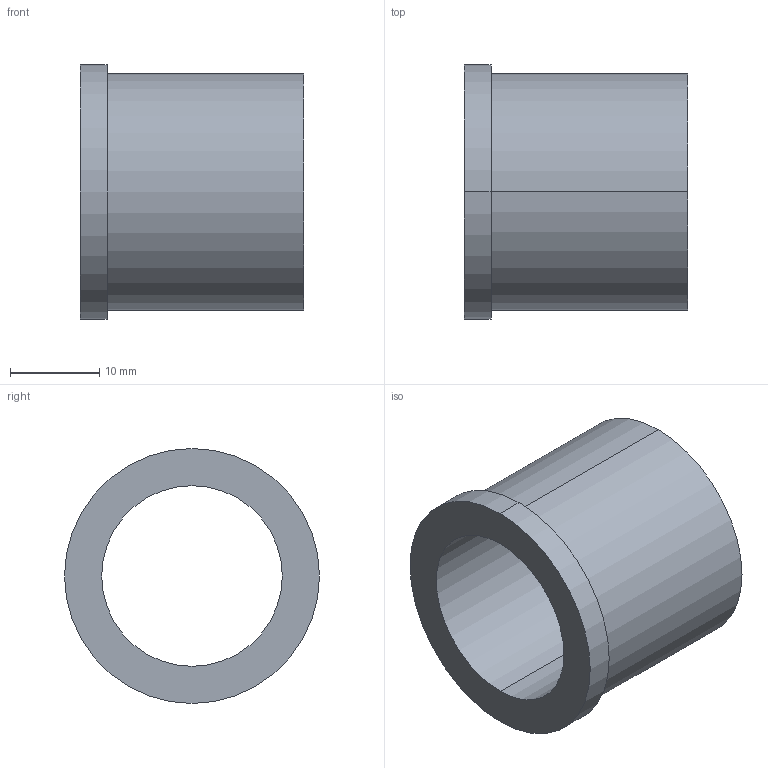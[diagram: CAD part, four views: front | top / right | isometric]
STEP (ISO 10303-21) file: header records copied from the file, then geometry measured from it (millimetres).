
FILE_DESCRIPTION(('Creo Elements/Direct Modeling STEP Export'),'2;1');
FILE_NAME('H07-0029-CL901-01_G28-20A.stp','2012-09-28T13:56:05',(''),(''),'Creo Elements/Direct Modeling STEP processor for AP214 (Solid Model)','Creo Elements/Direct Modeling 18.0B 02-Dec-2011 (C) Parametric Technology GmbH','');
FILE_SCHEMA(('AUTOMOTIVE_DESIGN { 1 0 10303 214 1 1 1 1 }'));
Length unit declared in the file: millimetre
Products named in the file (2): G28-20A
Assembly tree (1 placements, depth 2):
  G28-20A
    G28-20A
Bounding box: 25 x 28.5 x 28.5 mm (x, y, z)
Volume: 6036 mm3; surface area: 4321.6 mm2
Topology: 1 solids, 1 shells, 9 faces, 18 edges, 12 vertices
Faces by surface type: cylinder 6, plane 3
Entity records: 263 total; most frequent: DIRECTION 40, ORIENTED_EDGE 36, CARTESIAN_POINT 35, EDGE_CURVE 18, AXIS2_PLACEMENT_3D 17, VERTEX_POINT 12, EDGE_LOOP 12, FACE_OUTER_BOUND 9
